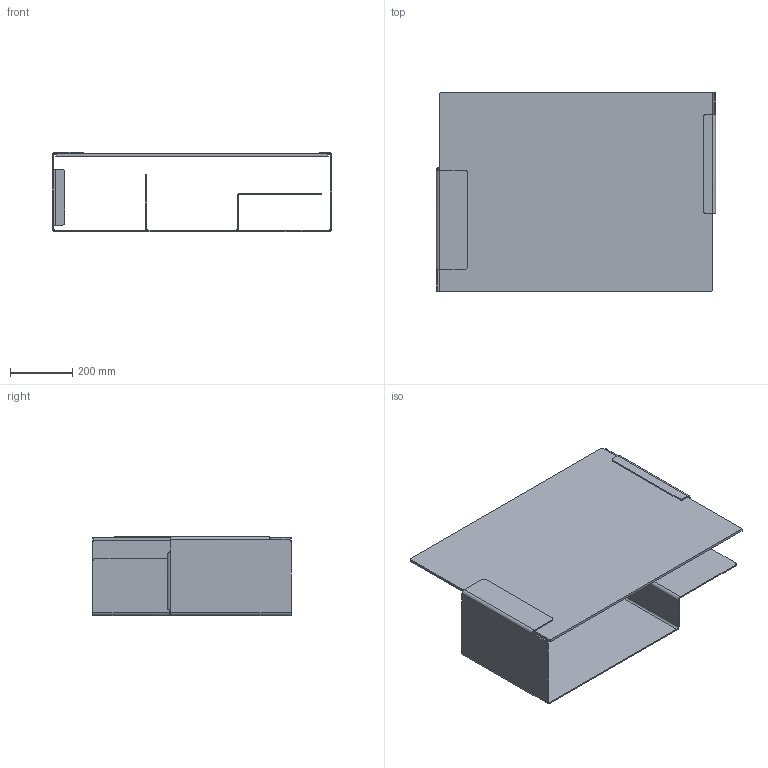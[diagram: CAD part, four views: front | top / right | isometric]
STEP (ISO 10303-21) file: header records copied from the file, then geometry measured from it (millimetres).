
FILE_DESCRIPTION(/* description */ (''),/* implementation_level */ '2;1');
FILE_NAME(/* name */ 'KG_Diana_D_3D_JS_20230718',/* time_stamp */ '2023-07-18T11:18:38+02:00',/* author */ (''),/* organization */ (''),/* preprocessor_version */ 'ST-DEVELOPER v16.5',/* originating_system */ 'Rhino 7.31',/* authorisation */ '');
FILE_SCHEMA (('CONFIG_CONTROL_DESIGN'));
Length unit declared in the file: millimetre
Products named in the file (1): Document
Bounding box: 900.01 x 640 x 255 mm (x, y, z)
Volume: 7714874.5 mm3; surface area: 2779662.4 mm2
Topology: 2 solids, 2 shells, 107 faces, 253 edges, 150 vertices
Faces by surface type: plane 65, cylinder 36, bspline 6
Entity records: 3152 total; most frequent: CARTESIAN_POINT 1288, ORIENTED_EDGE 506, EDGE_CURVE 253, B_SPLINE_CURVE_WITH_KNOTS 217, VERTEX_POINT 150, EDGE_LOOP 115, ADVANCED_FACE 107, FACE_OUTER_BOUND 107
